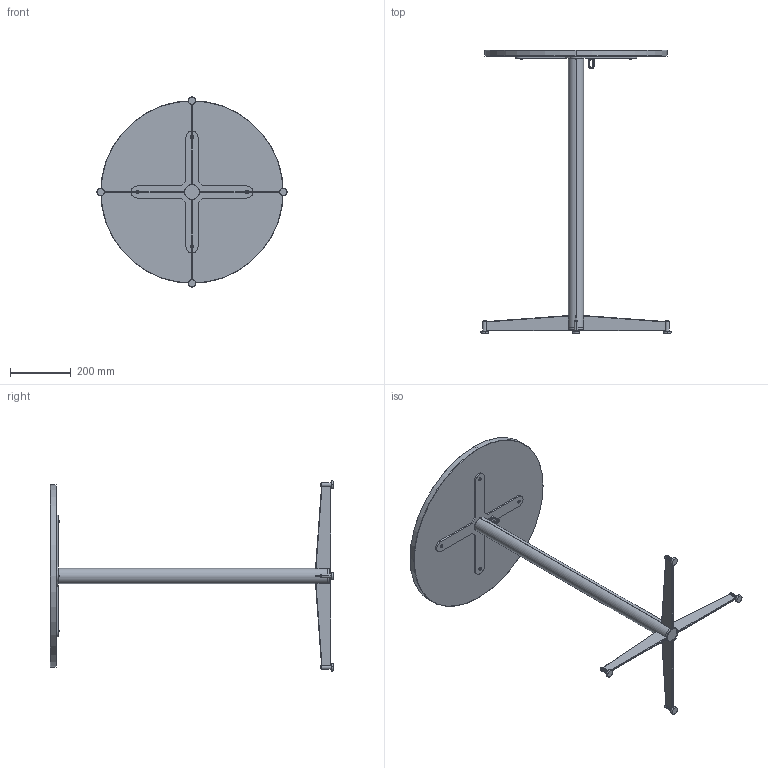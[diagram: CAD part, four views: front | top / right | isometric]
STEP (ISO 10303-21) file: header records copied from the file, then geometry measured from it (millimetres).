
FILE_DESCRIPTION (( 'STEP AP214' ), '1' );
FILE_NAME ('Nook Counter Table Ø60.STEP', '2025-10-03T12:08:44', ( '' ), ( '' ), 'SwSTEP 2.0', 'SolidWorks 2024', '' );
FILE_SCHEMA (( 'AUTOMOTIVE_DESIGN' ));
Length unit declared in the file: millimetre
Products named in the file (10): 085A214_R01 Nook Table inner thread stud; 085A106_R01 Nook Dining Table X Plate Assembly Steel; Nook Counter Table Ø60; SF257M627S-Ackurat; 085B205_R01 Nook Counter Table Leg Joint Steel; socket button head screw_iso_ISO 7380 - M6 x 12 - 12N; Nook Tabletop Ø60x2; 085A206_R01 Nook Table Leg 6mm Steel test; 085A201_R01 Nook Dining Table X Plate Steel; 085A206_R01 Nook Dining Table Wire Attachment
Assembly tree (21 placements, depth 3):
  Nook Counter Table Ø60
    085B205_R01 Nook Counter Table Leg Joint Steel
    085A206_R01 Nook Table Leg 6mm Steel test  x4
    085A214_R01 Nook Table inner thread stud  x4
    085A106_R01 Nook Dining Table X Plate Assembly Steel
      085A201_R01 Nook Dining Table X Plate Steel
      085A206_R01 Nook Dining Table Wire Attachment
    SF257M627S-Ackurat  x4
    socket button head screw_iso_ISO 7380 - M6 x 12 - 12N  x4
    Nook Tabletop Ø60x2
Bounding box: 624.97 x 931 x 624.97 mm (x, y, z)
Volume: 6337676.1 mm3; surface area: 1065473.8 mm2
Topology: 20 solids, 20 shells, 574 faces, 1456 edges, 936 vertices
Faces by surface type: cylinder 342, plane 144, cone 36, torus 32, bspline 12, sphere 8
Entity records: 11175 total; most frequent: CARTESIAN_POINT 5943, ORIENTED_EDGE 1054, DIRECTION 1040, EDGE_CURVE 527, AXIS2_PLACEMENT_3D 406, VERTEX_POINT 339, EDGE_LOOP 234, VECTOR 228
